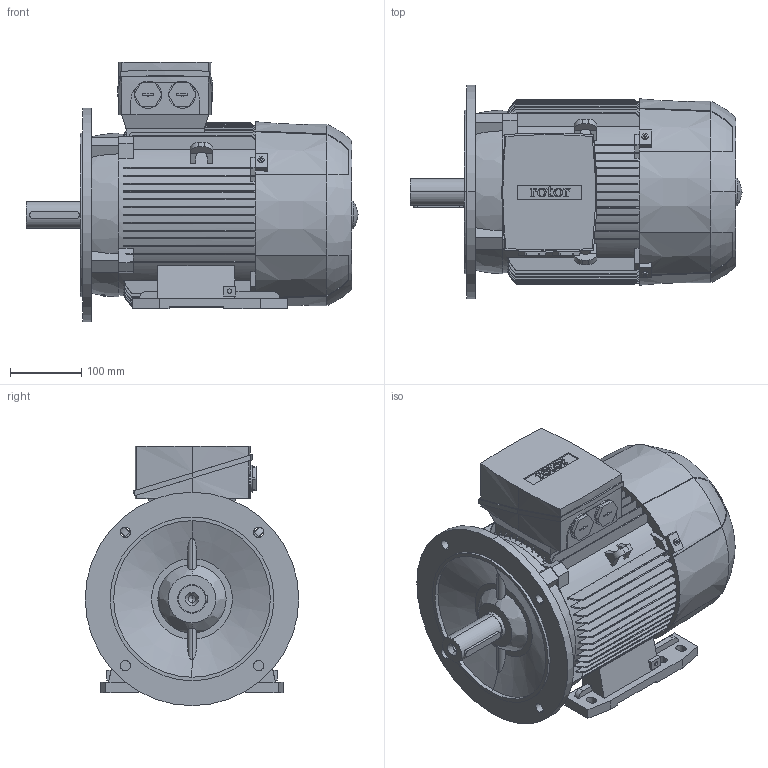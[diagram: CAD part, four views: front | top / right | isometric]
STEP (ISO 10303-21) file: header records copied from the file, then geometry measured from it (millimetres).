
FILE_DESCRIPTION (( 'STEP AP214' ), '1' );
FILE_NAME ('6RN132M06E12 IM2041.STEP', '2016-12-30T10:35:59', ( 'rbc_ict' ), ( 'Microsoft' ), 'SwSTEP 2.0', 'SolidWorks 2015', '' );
FILE_SCHEMA (( 'AUTOMOTIVE_DESIGN' ));
Length unit declared in the file: millimetre
Products named in the file (1): 6RN132M06E12 IM2041
Bounding box: 466.5 x 300 x 364.5 mm (x, y, z)
Volume: 19518618.9 mm3; surface area: 893668.7 mm2
Topology: 1 solids, 1 shells, 876 faces, 2482 edges, 1638 vertices
Faces by surface type: plane 509, cylinder 172, bspline 171, cone 24
Entity records: 42467 total; most frequent: CARTESIAN_POINT 12490, ORIENTED_EDGE 4956, DIRECTION 3697, EDGE_CURVE 2478, VERTEX_POINT 1638, LINE 1431, VECTOR 1431, AXIS2_PLACEMENT_3D 1133
